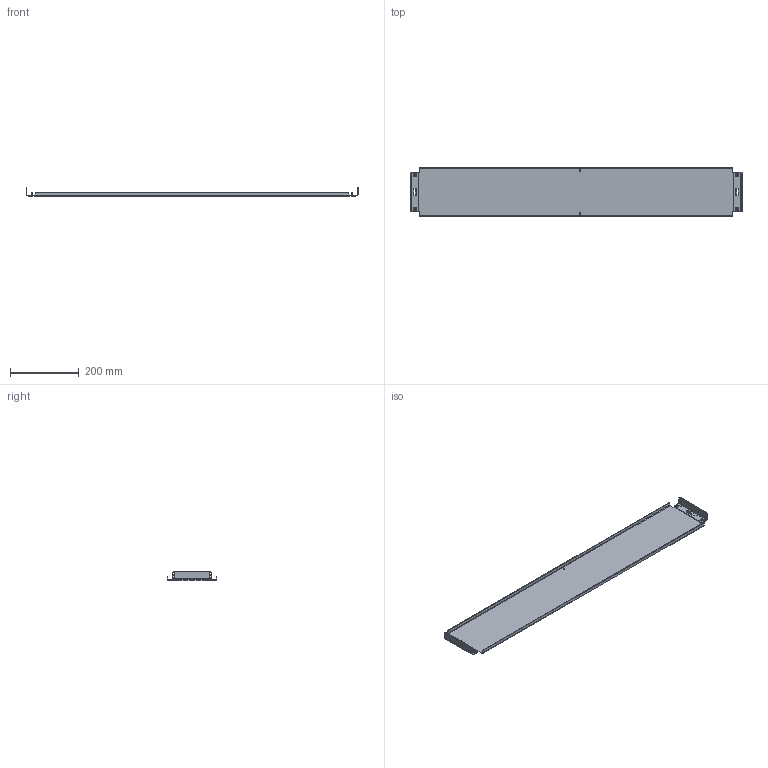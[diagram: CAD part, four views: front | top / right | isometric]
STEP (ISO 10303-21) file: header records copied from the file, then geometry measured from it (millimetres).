
FILE_DESCRIPTION(('STEP AP203'), '1');
FILE_NAME('Ïàíåëü ìîíòàæíàÿ ãëóõàÿ Â150õØ1000 ìì OptiBox M 419096 ÊÝÀÇ', '', ('UNSPECIFIED'), ('UNSPECIFIED'), 'C3D Converter', 'C3D Toolkit', '');
FILE_SCHEMA(('CONFIG_CONTROL_DESIGN'));
Length unit declared in the file: millimetre
Bounding box: 969.2 x 145 x 26 mm (x, y, z)
Volume: 324863 mm3; surface area: 331894.6 mm2
Topology: 3 solids, 3 shells, 152 faces, 398 edges, 252 vertices
Faces by surface type: plane 118, cylinder 34
Full cylindrical faces by diameter (mm): 4.6 x2, 7.3 x4
Entity records: 5892 total; most frequent: CARTESIAN_POINT 797, ORIENTED_EDGE 784, DIRECTION 766, EDGE_CURVE 392, LINE 324, VECTOR 324, VERTEX_POINT 252, AXIS2_PLACEMENT_3D 221
